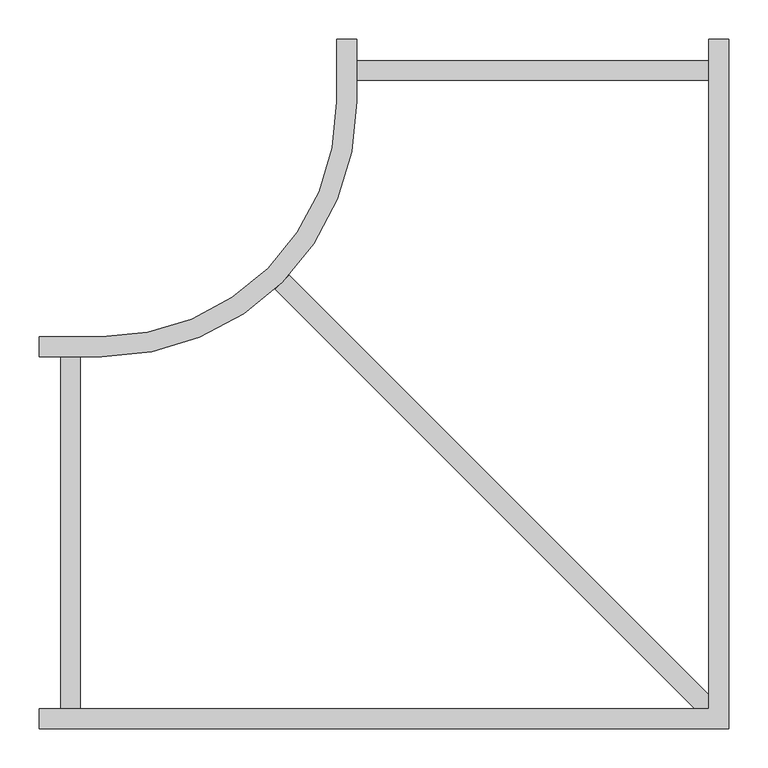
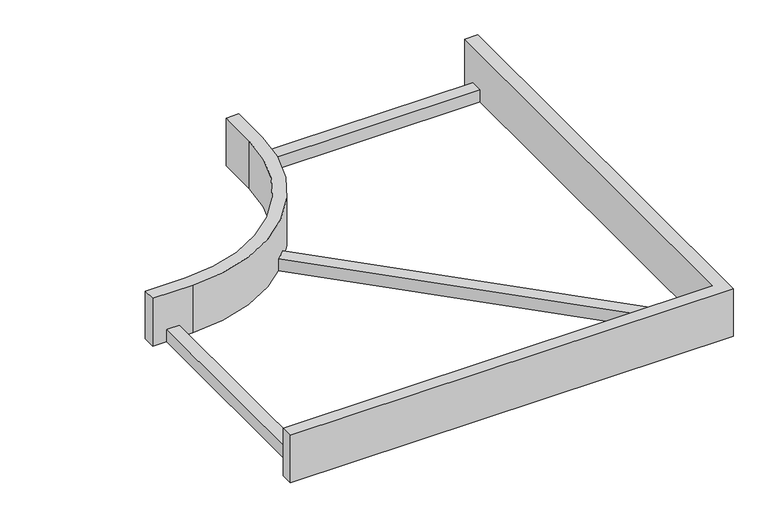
"""IFC4 building model written with IfcOpenShell, lengths in millimetres: cable carrier fitting geometry, Common_L 型接合部、交差梁付き : 03 強電_低圧."""

from ifc_helpers import new_model, si_unit, point, frame, frame_2d, origin, place, context, project, spatial, polyline, circle_curve, trimmed, segment, composite_curve, outline, extrude, source, transform, mapped, element, save


def cable_carrier_fitting_3f0ff01a(model_context):
    return source(origin(), model_context, "Body", "SweptSolid", [
        extrude(outline(composite_curve([segment(polyline([(224.6, -224.6), (206.6394878, -224.6), (-329.063021, 311.1025088)]), True, "CONTINUOUS"), segment(trimmed(circle_curve(frame_2d((-550.0, 550.0)), 325.4), [point((-329.063021, 311.1025088))], [point((-311.1025088, 329.063021))], True, "CARTESIAN"), True, "CONTINUOUS"), segment(polyline([(-311.1025088, 329.063021), (224.6, -206.6394878), (224.6, -224.6)]), True, "CONTINUOUS")], self_intersect=False)), frame((0.0, 0.0, -50.0), z_axis=(0.0, 0.0, 1.0), x_axis=(1.0, 0.0, 0.0)), (0.0, 0.0, 1.0), 25.4),
        extrude(outline(polyline([(-630.0, -250.0), (-630.0, -224.6), (224.6, -224.6), (224.6, 630.0), (250.0, 630.0), (250.0, -250.0), (-630.0, -250.0)])), frame((0.0, 0.0, -50.0), z_axis=(0.0, 0.0, 1.0), x_axis=(1.0, 0.0, 0.0)), (0.0, 0.0, 1.0), 100.0),
        extrude(outline(composite_curve([segment(polyline([(-630.0, 224.6), (-630.0, 250.0), (-550.0, 250.0)]), True, "CONTINUOUS"), segment(trimmed(circle_curve(frame_2d((-550.0, 550.0)), 300.0), [point((-550.0, 250.0))], [point((-250.0, 550.0))], True, "CARTESIAN"), True, "CONTINUOUS"), segment(polyline([(-250.0, 550.0), (-250.0, 630.0), (-224.6, 630.0), (-224.6, 550.0)]), True, "CONTINUOUS"), segment(trimmed(circle_curve(frame_2d((-550.0, 550.0)), 325.4), [point((-224.6, 550.0))], [point((-550.0, 224.6))], False, "CARTESIAN"), True, "CONTINUOUS"), segment(polyline([(-550.0, 224.6), (-630.0, 224.6)]), True, "CONTINUOUS")], self_intersect=False)), frame((0.0, 0.0, -50.0), z_axis=(0.0, 0.0, 1.0), x_axis=(1.0, 0.0, 0.0)), (0.0, 0.0, 1.0), 100.0),
        extrude(outline(polyline([(-224.6, 577.3), (-224.6, 602.7), (224.6, 602.7), (224.6, 577.3), (-224.6, 577.3)])), frame((0.0, 0.0, -50.0), z_axis=(0.0, 0.0, 1.0), x_axis=(1.0, 0.0, 0.0)), (0.0, 0.0, 1.0), 25.4),
        extrude(outline(polyline([(-602.7, 224.6), (-577.3, 224.6), (-577.3, -224.6), (-602.7, -224.6), (-602.7, 224.6)])), frame((0.0, 0.0, -50.0), z_axis=(0.0, 0.0, 1.0), x_axis=(1.0, 0.0, 0.0)), (0.0, 0.0, 1.0), 25.4),
    ])


if __name__ == "__main__":
    model = new_model("IFC4")
    model_context = context("Model", 3, world=origin())
    ifc_project = project(units=[si_unit("LENGTHUNIT", "METRE", prefix="MILLI")], contexts=[model_context])
    site = spatial("IfcSite", under=ifc_project)
    building = spatial("IfcBuilding", under=site)
    placement = place(None, origin())
    cable_carrier_fitting_shape = cable_carrier_fitting_3f0ff01a(model_context)
    element("IfcCableCarrierFitting", 1, ObjectType="Common_L 型接合部、交差梁付き : 03 強電_低圧", at=placement, inside=building, context=model_context, shape_type="MappedRepresentation", body=[
        mapped(cable_carrier_fitting_shape, transform((0.0, 0.0, 0.0), x_axis=(1.0, 0.0, 0.0), y_axis=(0.0, 1.0, 0.0), z_axis=(0.0, 0.0, 1.0))),
    ])
    save(model, "model.ifc")
